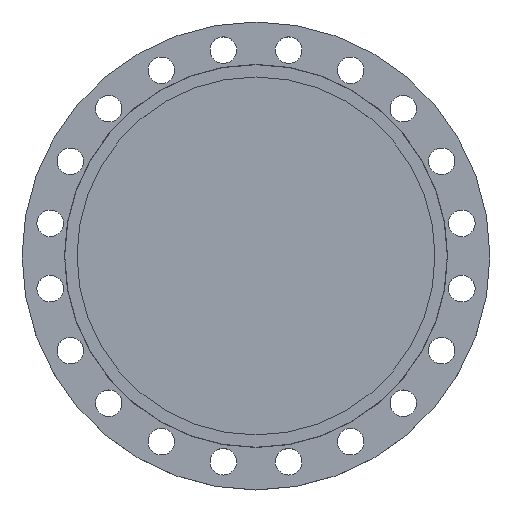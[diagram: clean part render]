
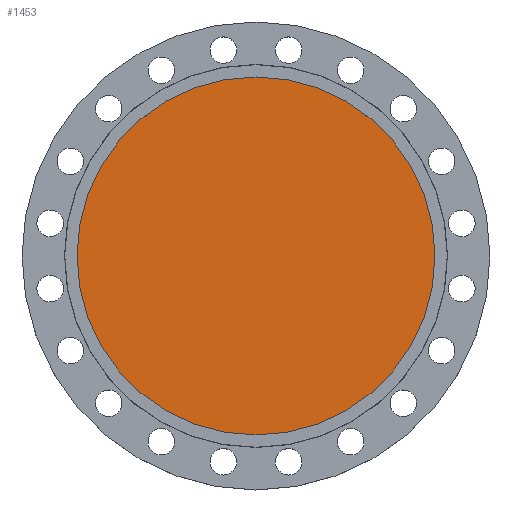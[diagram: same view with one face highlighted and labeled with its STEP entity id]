
A CAD part, top view. The second image highlights one B-rep face of the part: STEP entity #1453.
In plain terms, the highlighted planar face has unit normal (0, 0, 1).
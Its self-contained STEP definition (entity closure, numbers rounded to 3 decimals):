
#53 = CARTESIAN_POINT ( 'NONE',  ( 262., 0., -5. ) ) ;
#94 = DIRECTION ( 'NONE',  ( -1., 0., 0. ) ) ;
#123 = DIRECTION ( 'NONE',  ( -1., 0., 0. ) ) ;
#124 = DIRECTION ( 'NONE',  ( 0., 0., -1. ) ) ;
#126 = CARTESIAN_POINT ( 'NONE',  ( 0., 0., -5. ) ) ;
#131 = AXIS2_PLACEMENT_3D ( 'NONE', #1236, #1670, #251 ) ;
#251 = DIRECTION ( 'NONE',  ( 1., 0., 0. ) ) ;
#471 = PLANE ( 'NONE',  #131 ) ;
#717 = EDGE_LOOP ( 'NONE', ( #985, #984 ) ) ;
#808 = CIRCLE ( 'NONE', #810, 262. ) ;
#810 = AXIS2_PLACEMENT_3D ( 'NONE', #126, #124, #123 ) ;
#984 = ORIENTED_EDGE ( 'NONE', *, *, #1566, .F. ) ;
#985 = ORIENTED_EDGE ( 'NONE', *, *, #1115, .F. ) ;
#1115 = EDGE_CURVE ( 'NONE', #1350, #1179, #808, .T. ) ;
#1150 = CARTESIAN_POINT ( 'NONE',  ( 0., 0., -5. ) ) ;
#1179 = VERTEX_POINT ( 'NONE', #53 ) ;
#1236 = CARTESIAN_POINT ( 'NONE',  ( 262., 0., -5. ) ) ;
#1313 = CARTESIAN_POINT ( 'NONE',  ( -262., 0., -5. ) ) ;
#1350 = VERTEX_POINT ( 'NONE', #1313 ) ;
#1453 = ADVANCED_FACE ( 'NONE', ( #1793 ), #471, .T. ) ;
#1566 = EDGE_CURVE ( 'NONE', #1179, #1350, #1785, .T. ) ;
#1608 = DIRECTION ( 'NONE',  ( 0., 0., -1. ) ) ;
#1670 = DIRECTION ( 'NONE',  ( 0., 0., 1. ) ) ;
#1755 = AXIS2_PLACEMENT_3D ( 'NONE', #1150, #1608, #94 ) ;
#1785 = CIRCLE ( 'NONE', #1755, 262. ) ;
#1793 = FACE_OUTER_BOUND ( 'NONE', #717, .T. ) ;
